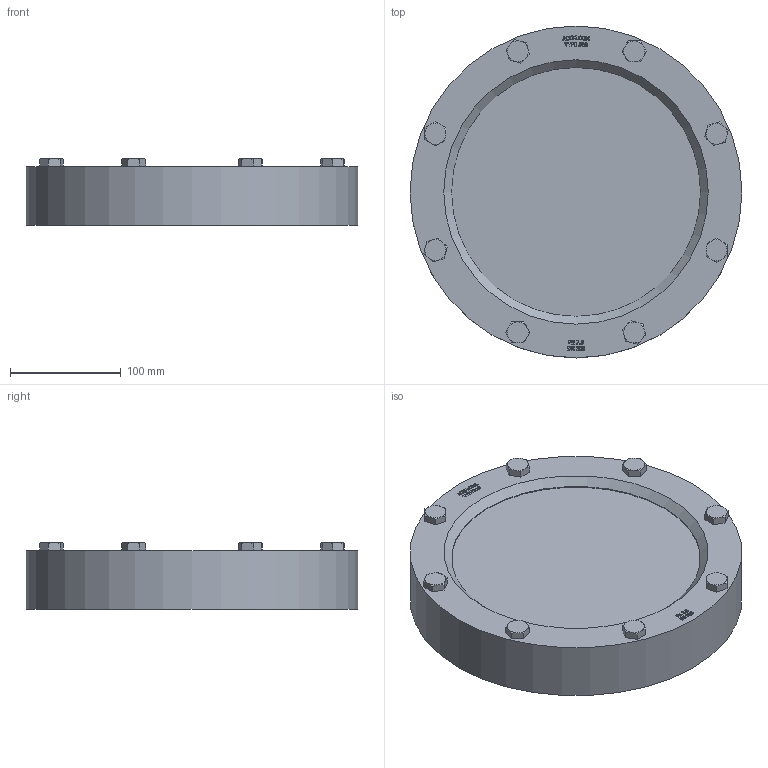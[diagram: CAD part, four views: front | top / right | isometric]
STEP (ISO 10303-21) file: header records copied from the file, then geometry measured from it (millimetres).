
FILE_DESCRIPTION(/* description */ ('ACI Typ 318V DN200'),/* implementation_level */ '2;1');
FILE_NAME(/* name */ 'W:\_Allgemein\Götz-Willms\_Schreibtisch\ACI-318V-200.stp',/* time_stamp */ '2020-02-04T12:56:58+01:00',/* author */ ('Götz'),/* organization */ ('ACI Industriearmaturen GmbH'),/* preprocessor_version */ 'ST-DEVELOPER v16.1',/* originating_system */ 'Autodesk Inventor 2016',/* authorisation */ 'ACI Industriearmaturen GmbH');
FILE_SCHEMA (('CONFIG_CONTROL_DESIGN'));
Length unit declared in the file: centimetre
Products named in the file (1): ACI-318V-200
Bounding box: 300 x 300 x 60.5 mm (x, y, z)
Volume: 3011831.8 mm3; surface area: 202514.9 mm2
Topology: 1 solids, 1 shells, 526 faces, 1361 edges, 891 vertices
Faces by surface type: plane 286, bspline 179, cone 50, cylinder 11
Full cylindrical faces by diameter (mm): 17.2 x8, 225 x2, 300 x1
Entity records: 17185 total; most frequent: CARTESIAN_POINT 5283, ORIENTED_EDGE 2694, DIRECTION 1661, EDGE_CURVE 1347, VERTEX_POINT 890, LINE 821, VECTOR 821, EDGE_LOOP 593
